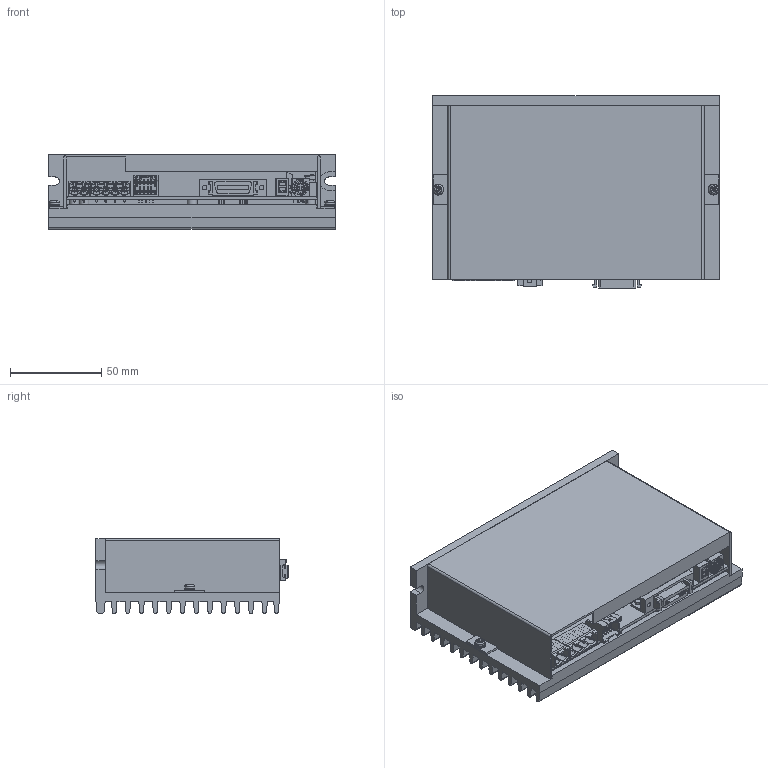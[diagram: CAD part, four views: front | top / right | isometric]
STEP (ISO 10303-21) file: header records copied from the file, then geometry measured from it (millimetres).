
FILE_DESCRIPTION (( 'STEP AP203' ), '1' );
FILE_NAME ('P13-DR-086-01-R00.STEP', '2017-01-09T02:35:21', ( '' ), ( '' ), 'SwSTEP 2.0', 'SolidWorks 2013', '' );
FILE_SCHEMA (( 'CONFIG_CONTROL_DESIGN' ));
Length unit declared in the file: millimetre
Products named in the file (17): pan cross head_ks_KS 1023 PC- M3 x 6-N; 559591030; spring lock washer_ks_KS 1324 - M3; N10226-5212-XC-01; plain washer small grade a_iso_Washer ISO 7092 - 3; _X2_D30CD2B8_X0_94_2; P13-DR-086-01-R00; _S-1031A_body; M13-DR-086-01-R01; _Without knob-Dial; M13-DR-086-02-R01; S-1031A; PCB_86; 442480029; PTR_STLZ950_2G_508_H; 8; PTR_STLZ950_4G_508_H
Assembly tree (19 placements, depth 3):
  P13-DR-086-01-R00
    M13-DR-086-01-R01
    M13-DR-086-02-R01
    PCB_86
    PTR_STLZ950_2G_508_H
    PTR_STLZ950_4G_508_H
    559591030
    N10226-5212-XC-01
    _X2_D30CD2B8_X0_94_2
    S-1031A
      _S-1031A_body
      _Without knob-Dial
    442480029
    8
    pan cross head_ks_KS 1023 PC- M3 x 6-N  x2
    spring lock washer_ks_KS 1324 - M3  x2
    plain washer small grade a_iso_Washer ISO 7092 - 3  x2
Bounding box: 157 x 105.33 x 41 mm (x, y, z)
Volume: 192907.8 mm3; surface area: 150213.3 mm2
Topology: 23 solids, 23 shells, 3301 faces, 9058 edges, 5896 vertices
Faces by surface type: plane 2238, cylinder 780, bspline 197, cone 74, torus 8, sphere 4
Entity records: 140017 total; most frequent: CARTESIAN_POINT 56458, ORIENTED_EDGE 17872, DIRECTION 15559, EDGE_CURVE 8936, VECTOR 6749, LINE 6749, VERTEX_POINT 5829, AXIS2_PLACEMENT_3D 4405
